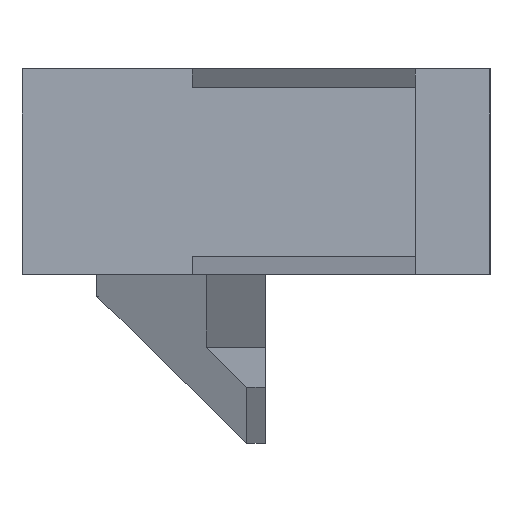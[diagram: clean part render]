
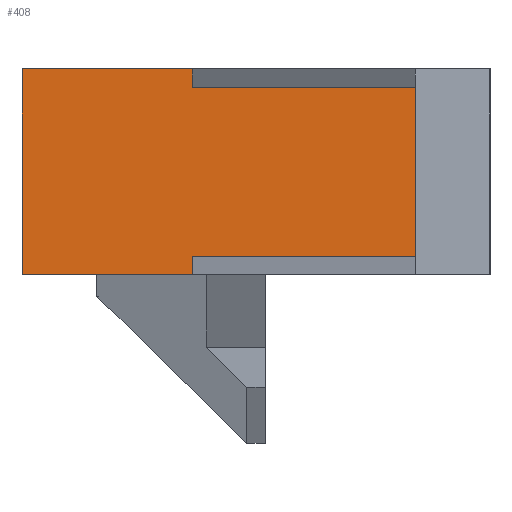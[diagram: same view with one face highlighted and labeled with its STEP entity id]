
A CAD part, left-side view. The second image highlights one B-rep face of the part: STEP entity #408.
In plain terms, the highlighted planar face has unit normal (-1, 0, 0).
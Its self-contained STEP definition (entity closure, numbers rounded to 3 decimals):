
#27 = ORIENTED_EDGE ( 'NONE', *, *, #279, .F. ) ;
#47 = EDGE_CURVE ( 'NONE', #1072, #1940, #2164, .T. ) ;
#53 = VERTEX_POINT ( 'NONE', #159 ) ;
#159 = CARTESIAN_POINT ( 'NONE',  ( -40., -19.082, 69.11 ) ) ;
#268 = AXIS2_PLACEMENT_3D ( 'NONE', #2740, #1911, #1899 ) ;
#279 = EDGE_CURVE ( 'NONE', #2369, #53, #680, .T. ) ;
#388 = DIRECTION ( 'NONE',  ( 0., 0., -1. ) ) ;
#390 = EDGE_CURVE ( 'NONE', #2377, #1023, #1661, .T. ) ;
#408 = ADVANCED_FACE ( 'NONE', ( #1254 ), #1011, .T. ) ;
#501 = EDGE_CURVE ( 'NONE', #1023, #2369, #1298, .T. ) ;
#581 = CARTESIAN_POINT ( 'NONE',  ( -40., -31., 69.11 ) ) ;
#680 = LINE ( 'NONE', #1559, #1287 ) ;
#749 = CARTESIAN_POINT ( 'NONE',  ( -40., -19.082, 68.11 ) ) ;
#836 = EDGE_CURVE ( 'NONE', #1940, #914, #2269, .T. ) ;
#852 = ORIENTED_EDGE ( 'NONE', *, *, #836, .F. ) ;
#872 = EDGE_CURVE ( 'NONE', #2377, #914, #2716, .T. ) ;
#914 = VERTEX_POINT ( 'NONE', #2047 ) ;
#925 = VECTOR ( 'NONE', #2255, 1000. ) ;
#952 = ORIENTED_EDGE ( 'NONE', *, *, #1569, .T. ) ;
#972 = ORIENTED_EDGE ( 'NONE', *, *, #47, .F. ) ;
#976 = CARTESIAN_POINT ( 'NONE',  ( -40., -31., 78.11 ) ) ;
#1011 = PLANE ( 'NONE',  #268 ) ;
#1023 = VERTEX_POINT ( 'NONE', #976 ) ;
#1036 = ORIENTED_EDGE ( 'NONE', *, *, #2669, .T. ) ;
#1072 = VERTEX_POINT ( 'NONE', #2371 ) ;
#1137 = VECTOR ( 'NONE', #2103, 1000. ) ;
#1146 = EDGE_LOOP ( 'NONE', ( #852, #972, #952, #1036, #27, #2604, #1300, #1590 ) ) ;
#1158 = DIRECTION ( 'NONE',  ( 0., -1., 0. ) ) ;
#1229 = CARTESIAN_POINT ( 'NONE',  ( -40., -10., 68.11 ) ) ;
#1254 = FACE_OUTER_BOUND ( 'NONE', #1146, .T. ) ;
#1287 = VECTOR ( 'NONE', #2234, 1000. ) ;
#1298 = LINE ( 'NONE', #2840, #1564 ) ;
#1300 = ORIENTED_EDGE ( 'NONE', *, *, #390, .F. ) ;
#1392 = CARTESIAN_POINT ( 'NONE',  ( -40., -19.082, 79.11 ) ) ;
#1424 = VECTOR ( 'NONE', #2583, 1000. ) ;
#1443 = VERTEX_POINT ( 'NONE', #2777 ) ;
#1559 = CARTESIAN_POINT ( 'NONE',  ( -40., -31., 69.11 ) ) ;
#1564 = VECTOR ( 'NONE', #388, 1000. ) ;
#1568 = VECTOR ( 'NONE', #1158, 1000. ) ;
#1569 = EDGE_CURVE ( 'NONE', #1072, #1443, #2833, .T. ) ;
#1590 = ORIENTED_EDGE ( 'NONE', *, *, #872, .T. ) ;
#1661 = LINE ( 'NONE', #2110, #2170 ) ;
#1670 = LINE ( 'NONE', #749, #1137 ) ;
#1849 = VECTOR ( 'NONE', #2819, 1000. ) ;
#1899 = DIRECTION ( 'NONE',  ( 0., 0., 1. ) ) ;
#1911 = DIRECTION ( 'NONE',  ( -1., 0., 0. ) ) ;
#1935 = CARTESIAN_POINT ( 'NONE',  ( -40., -19.082, 68.11 ) ) ;
#1940 = VERTEX_POINT ( 'NONE', #2353 ) ;
#2034 = CARTESIAN_POINT ( 'NONE',  ( -40., -19.082, 68.11 ) ) ;
#2047 = CARTESIAN_POINT ( 'NONE',  ( -40., -19.082, 79.11 ) ) ;
#2103 = DIRECTION ( 'NONE',  ( 0., 0., 1. ) ) ;
#2110 = CARTESIAN_POINT ( 'NONE',  ( -40., -31., 78.11 ) ) ;
#2164 = LINE ( 'NONE', #1229, #1424 ) ;
#2170 = VECTOR ( 'NONE', #2366, 1000. ) ;
#2231 = CARTESIAN_POINT ( 'NONE',  ( -40., -19.082, 78.11 ) ) ;
#2234 = DIRECTION ( 'NONE',  ( 0., 1., 0. ) ) ;
#2255 = DIRECTION ( 'NONE',  ( 0., 0., 1. ) ) ;
#2269 = LINE ( 'NONE', #1392, #1568 ) ;
#2353 = CARTESIAN_POINT ( 'NONE',  ( -40., -10., 79.11 ) ) ;
#2366 = DIRECTION ( 'NONE',  ( 0., -1., 0. ) ) ;
#2369 = VERTEX_POINT ( 'NONE', #581 ) ;
#2371 = CARTESIAN_POINT ( 'NONE',  ( -40., -10., 68.11 ) ) ;
#2377 = VERTEX_POINT ( 'NONE', #2231 ) ;
#2583 = DIRECTION ( 'NONE',  ( 0., 0., 1. ) ) ;
#2604 = ORIENTED_EDGE ( 'NONE', *, *, #501, .F. ) ;
#2669 = EDGE_CURVE ( 'NONE', #1443, #53, #1670, .T. ) ;
#2716 = LINE ( 'NONE', #2034, #925 ) ;
#2740 = CARTESIAN_POINT ( 'NONE',  ( -40., -19.082, 68.11 ) ) ;
#2777 = CARTESIAN_POINT ( 'NONE',  ( -40., -19.082, 68.11 ) ) ;
#2819 = DIRECTION ( 'NONE',  ( 0., -1., 0. ) ) ;
#2833 = LINE ( 'NONE', #1935, #1849 ) ;
#2840 = CARTESIAN_POINT ( 'NONE',  ( -40., -31., 69.11 ) ) ;
